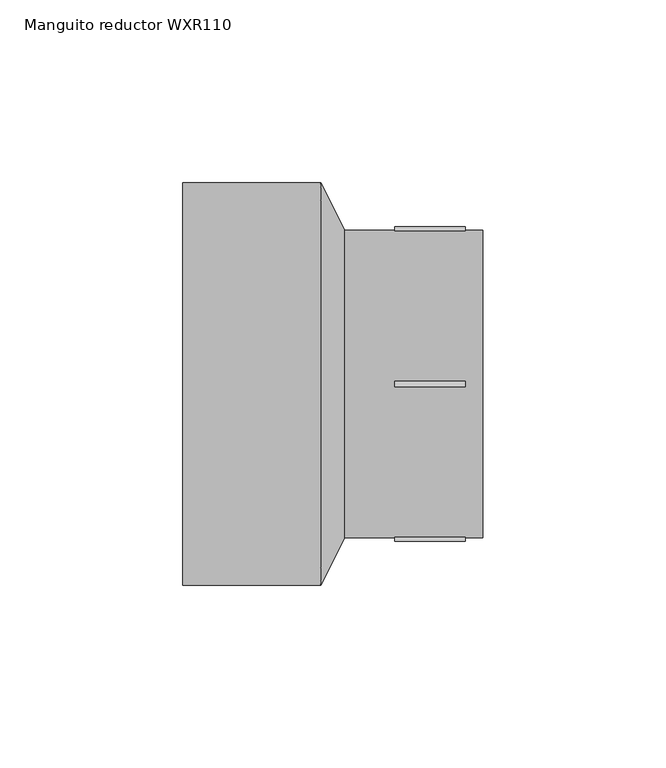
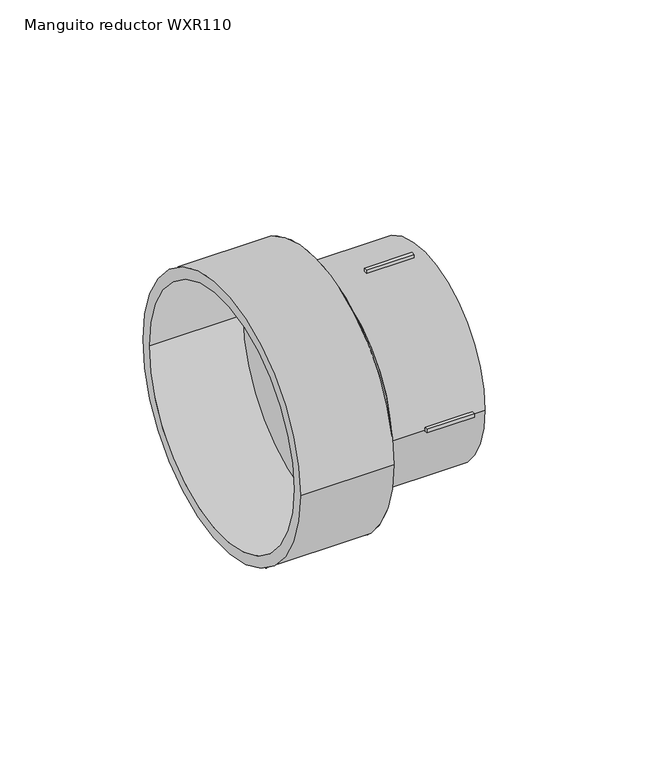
"""IFC4 building model written with IfcOpenShell, lengths in millimetres: pipe fitting geometry, EGB_VASEN_ PPR_Manguito reductor WXR110 : Manguito reductor WXR110."""

from ifc_helpers import new_model, si_unit, point, frame, origin, origin_2d, place, context, project, spatial, polyline, circle_curve, trimmed, segment, composite_curve, outline, extrude, source, transform, mapped, element, save
from ifc_brep_helpers import plane_surface, revolved_surface, advanced_brep


def manguito_reductor_wxr110_8b322e41(model_context):
    return source(origin(), model_context, "Body", "SolidModel", [
        extrude(outline(polyline([(17.0, -0.75), (17.0, 0.75), (36.2, 0.75), (36.2, -0.75), (17.0, -0.75)])), frame((0.0, 0.0, 41.0), z_axis=(0.0, 0.0, 1.0), x_axis=(1.0, 0.0, 0.0)), (0.0, 0.0, 1.0), 2.0),
        extrude(outline(polyline([(17.0, -0.75), (17.0, 0.75), (36.2, 0.75), (36.2, -0.75), (17.0, -0.75)])), frame((0.0, 0.0, -43.0), z_axis=(0.0, 0.0, 1.0), x_axis=(1.0, 0.0, 0.0)), (0.0, 0.0, 1.0), 2.0),
        extrude(outline(polyline([(17.0, 41.0), (17.0, 43.0), (36.2, 43.0), (36.2, 41.0), (17.0, 41.0)])), frame((0.0, 0.0, -0.75), z_axis=(0.0, 0.0, 1.0), x_axis=(1.0, 0.0, 0.0)), (0.0, 0.0, 1.0), 1.5),
        extrude(outline(polyline([(17.0, -43.0), (17.0, -41.0), (36.2, -41.0), (36.2, -43.0), (17.0, -43.0)])), frame((0.0, 0.0, -0.75), z_axis=(0.0, 0.0, 1.0), x_axis=(1.0, 0.0, 0.0)), (0.0, 0.0, 1.0), 1.5),
        extrude(outline(composite_curve([segment(trimmed(circle_curve(origin_2d(), 42.0), [point((-42.0, 0.0))], [point((42.0, 0.0))], False, "CARTESIAN"), True, "CONTINUOUS"), segment(trimmed(circle_curve(origin_2d(), 42.0), [point((42.0, 0.0))], [point((-42.0, 0.0))], False, "CARTESIAN"), True, "CONTINUOUS")], self_intersect=False), holes=[composite_curve([segment(trimmed(circle_curve(origin_2d(), 31.5), [point((-31.5, 0.0))], [point((31.5, 0.0))], True, "CARTESIAN"), True, "CONTINUOUS"), segment(trimmed(circle_curve(origin_2d(), 31.5), [point((31.5, 0.0))], [point((-31.5, 0.0))], True, "CARTESIAN"), True, "CONTINUOUS")], self_intersect=False)]), frame((3.28, 0.0, 0.0), z_axis=(1.0, 0.0, 0.0), x_axis=(0.0, 1.0, 0.0)), (0.0, 0.0, 1.0), 37.72),
        extrude(outline(composite_curve([segment(trimmed(circle_curve(origin_2d(), 55.0), [point((-55.0, 0.0))], [point((55.0, 0.0))], False, "CARTESIAN"), True, "CONTINUOUS"), segment(trimmed(circle_curve(origin_2d(), 55.0), [point((55.0, 0.0))], [point((-55.0, 0.0))], False, "CARTESIAN"), True, "CONTINUOUS")], self_intersect=False), holes=[composite_curve([segment(trimmed(circle_curve(origin_2d(), 50.5), [point((-50.5, 0.0))], [point((50.5, 0.0))], True, "CARTESIAN"), True, "CONTINUOUS"), segment(trimmed(circle_curve(origin_2d(), 50.5), [point((50.5, 0.0))], [point((-50.5, 0.0))], True, "CARTESIAN"), True, "CONTINUOUS")], self_intersect=False)]), frame((-41.0, 0.0, 0.0), z_axis=(1.0, 0.0, 0.0), x_axis=(0.0, 1.0, 0.0)), (0.0, 0.0, 1.0), 37.72),
        advanced_brep(
        [(3.28, -42.0, 0.0), (3.28, 42.0, 0.0), (-3.28, -55.0, 0.0), (-3.28, 55.0, 0.0)],
        [
            (0, 1, circle_curve(frame((3.28, 0.0, 0.0), z_axis=(1.0, 0.0, 0.0), x_axis=(0.0, -1.0, 0.0)), 42.0)),
            (1, 0, circle_curve(frame((3.28, 0.0, 0.0), z_axis=(1.0, 0.0, 0.0), x_axis=(0.0, 1.0, 0.0)), 42.0)),
            (2, 3, circle_curve(frame((-3.28, 0.0, 0.0), z_axis=(-1.0, 0.0, 0.0), x_axis=(0.0, 1.0, 0.0)), 55.0)),
            (3, 2, circle_curve(frame((-3.28, 0.0, 0.0), z_axis=(-1.0, 0.0, 0.0), x_axis=(0.0, -1.0, 0.0)), 55.0)),
            (3, 1),
            (0, 2),
        ],
        [
            plane_surface(frame((3.28, 0.0, 0.0), z_axis=(1.0, 0.0, 0.0), x_axis=(0.0, 0.0, -1.0))),
            plane_surface(frame((-3.28, 0.0, 0.0), z_axis=(-1.0, 0.0, 0.0), x_axis=(0.0, 0.0, -1.0))),
            revolved_surface(polyline([(3.280000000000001, -42.00000002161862, 0.0), (-3.280000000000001, -55.0, 0.0)]), (24.4738462, 0.0, 0.0), (-1.0, 0.0, 0.0)),
            revolved_surface(polyline([(3.280000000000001, 42.00000002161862, 0.0), (-3.280000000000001, 55.0, 0.0)]), (24.4738462, 0.0, 0.0), (-1.0, 0.0, 0.0)),
        ],
        [
            (0, [[1, 2]]),
            (1, [[3, 4]]),
            (2, [[-4, 5, -1, 6]]),
            (3, [[-3, -6, -2, -5]]),
        ],
    ),
    ])


if __name__ == "__main__":
    model = new_model("IFC4")
    model_context = context("Model", 3, world=origin())
    ifc_project = project(units=[si_unit("LENGTHUNIT", "METRE", prefix="MILLI")], contexts=[model_context])
    site = spatial("IfcSite", under=ifc_project)
    building = spatial("IfcBuilding", under=site)
    placement = place(None, origin())
    manguito_reductor_wxr110_shape = manguito_reductor_wxr110_8b322e41(model_context)
    element("IfcPipeFitting", 1, ObjectType="EGB_VASEN_ PPR_Manguito reductor WXR110 : Manguito reductor WXR110", at=placement, inside=building, context=model_context, shape_type="MappedRepresentation", body=[
        mapped(manguito_reductor_wxr110_shape, transform((0.0, 0.0, 0.0), x_axis=(1.0, 0.0, 0.0), y_axis=(0.0, 1.0, 0.0), z_axis=(0.0, 0.0, 1.0))),
    ])
    save(model, "model.ifc")
